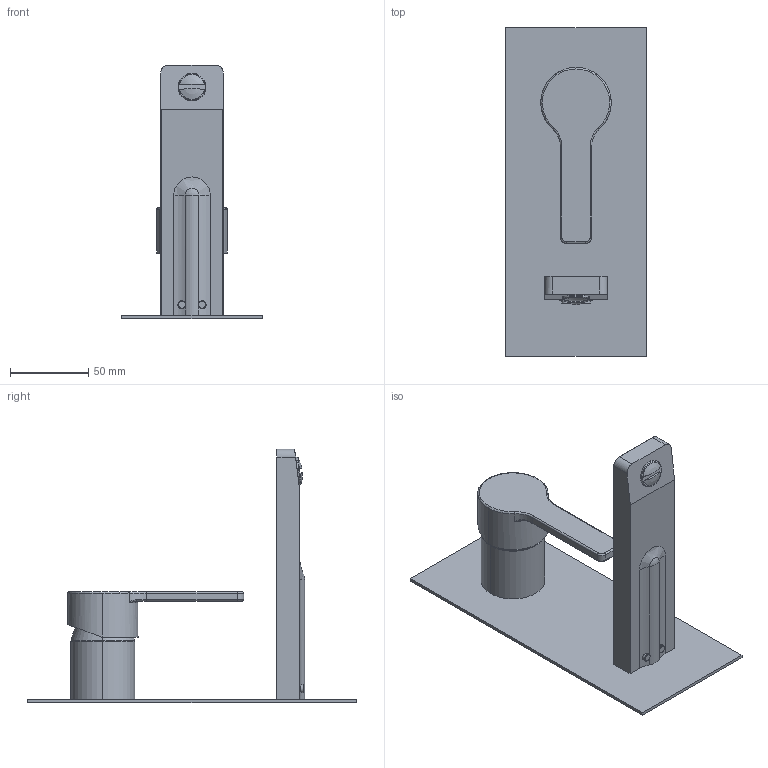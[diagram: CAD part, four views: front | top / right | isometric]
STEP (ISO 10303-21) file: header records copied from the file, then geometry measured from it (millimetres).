
FILE_DESCRIPTION((''),'2;1');
FILE_NAME('F3541VX5_FILE_3D','2013-05-16T',('ivanv'),(''),'PRO/ENGINEER BY PARAMETRIC TECHNOLOGY CORPORATION, 2012130','PRO/ENGINEER BY PARAMETRIC TECHNOLOGY CORPORATION, 2012130','');
FILE_SCHEMA(('CONFIG_CONTROL_DESIGN'));
Length unit declared in the file: millimetre
Products named in the file (1): F3541VX5_FILE_3D
Bounding box: 90 x 210 x 162 mm (x, y, z)
Volume: 171715.7 mm3; surface area: 83734.5 mm2
Topology: 1 solids, 2 shells, 155 faces, 369 edges, 234 vertices
Faces by surface type: plane 61, cylinder 52, cone 20, torus 14, bspline 5, sphere 3
Entity records: 5256 total; most frequent: CARTESIAN_POINT 1572, DIRECTION 795, ORIENTED_EDGE 738, EDGE_CURVE 369, AXIS2_PLACEMENT_3D 311, VERTEX_POINT 234, VECTOR 173, LINE 173
